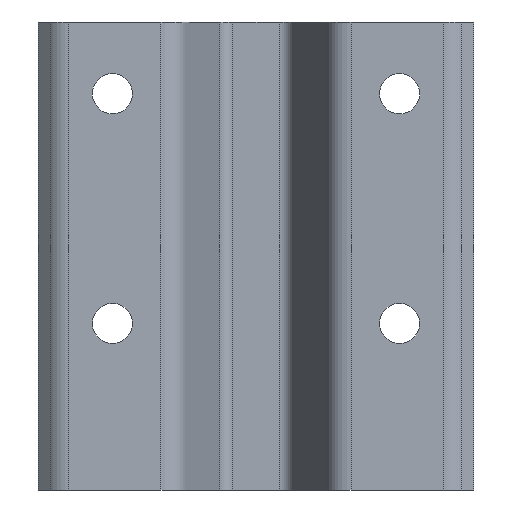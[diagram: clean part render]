
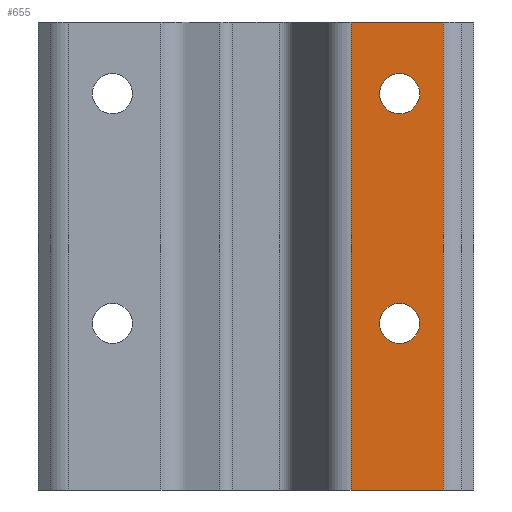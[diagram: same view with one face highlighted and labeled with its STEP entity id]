
A CAD part, front view. The second image highlights one B-rep face of the part: STEP entity #655.
In plain terms, the highlighted planar face has unit normal (0, -1, 0).
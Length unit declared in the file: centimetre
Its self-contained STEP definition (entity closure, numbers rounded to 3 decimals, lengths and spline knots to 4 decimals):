
#18=FACE_BOUND('',#88,.T.);
#19=FACE_BOUND('',#89,.T.);
#29=PLANE('',#701);
#51=FACE_OUTER_BOUND('',#87,.T.);
#87=EDGE_LOOP('',(#476,#477,#478,#479));
#88=EDGE_LOOP('',(#480));
#89=EDGE_LOOP('',(#481));
#128=CIRCLE('',#702,7.);
#129=CIRCLE('',#703,7.);
#169=LINE('',#1005,#233);
#170=LINE('',#1011,#234);
#171=LINE('',#1012,#235);
#172=LINE('',#1013,#236);
#233=VECTOR('',#803,1.);
#234=VECTOR('',#810,1.);
#235=VECTOR('',#811,1.);
#236=VECTOR('',#812,1.);
#298=VERTEX_POINT('',#1003);
#299=VERTEX_POINT('',#1004);
#300=VERTEX_POINT('',#1009);
#301=VERTEX_POINT('',#1010);
#302=VERTEX_POINT('',#1014);
#303=VERTEX_POINT('',#1016);
#369=EDGE_CURVE('',#298,#299,#169,.T.);
#372=EDGE_CURVE('',#300,#301,#170,.T.);
#373=EDGE_CURVE('',#300,#298,#171,.T.);
#374=EDGE_CURVE('',#299,#301,#172,.T.);
#375=EDGE_CURVE('',#302,#302,#128,.T.);
#376=EDGE_CURVE('',#303,#303,#129,.T.);
#476=ORIENTED_EDGE('',*,*,#372,.F.);
#477=ORIENTED_EDGE('',*,*,#373,.T.);
#478=ORIENTED_EDGE('',*,*,#369,.T.);
#479=ORIENTED_EDGE('',*,*,#374,.T.);
#480=ORIENTED_EDGE('',*,*,#375,.T.);
#481=ORIENTED_EDGE('',*,*,#376,.T.);
#655=ADVANCED_FACE('',(#51,#18,#19),#29,.T.);
#701=AXIS2_PLACEMENT_3D('',#1008,#808,#809);
#702=AXIS2_PLACEMENT_3D('',#1015,#813,#814);
#703=AXIS2_PLACEMENT_3D('',#1017,#815,#816);
#803=DIRECTION('',(0.,0.,1.));
#808=DIRECTION('center_axis',(0.,-1.,0.));
#809=DIRECTION('ref_axis',(1.,0.,0.));
#810=DIRECTION('',(0.,0.,1.));
#811=DIRECTION('',(1.,0.,0.));
#812=DIRECTION('',(-1.,0.,0.));
#813=DIRECTION('center_axis',(0.,1.,0.));
#814=DIRECTION('ref_axis',(1.,0.,0.));
#815=DIRECTION('center_axis',(0.,1.,0.));
#816=DIRECTION('ref_axis',(1.,0.,0.));
#1003=CARTESIAN_POINT('',(-194.7055,356.3958,0.));
#1004=CARTESIAN_POINT('',(-194.7055,356.3958,163.));
#1005=CARTESIAN_POINT('',(-194.7055,356.3958,0.));
#1008=CARTESIAN_POINT('Origin',(-209.9576,356.3958,47.));
#1009=CARTESIAN_POINT('',(-226.8498,356.3958,0.));
#1010=CARTESIAN_POINT('',(-226.8498,356.3958,163.));
#1011=CARTESIAN_POINT('',(-226.8498,356.3958,0.));
#1012=CARTESIAN_POINT('',(-226.8498,356.3958,0.));
#1013=CARTESIAN_POINT('',(-226.8498,356.3958,163.));
#1014=CARTESIAN_POINT('',(-216.9576,356.3958,58.));
#1015=CARTESIAN_POINT('Origin',(-209.9576,356.3958,58.));
#1016=CARTESIAN_POINT('',(-216.9576,356.3958,138.));
#1017=CARTESIAN_POINT('Origin',(-209.9576,356.3958,138.));
